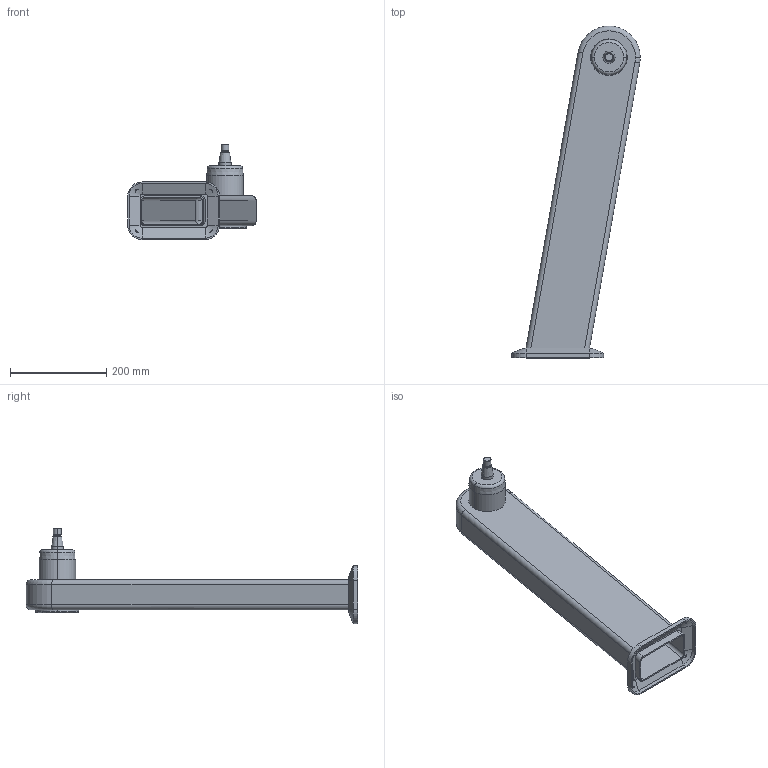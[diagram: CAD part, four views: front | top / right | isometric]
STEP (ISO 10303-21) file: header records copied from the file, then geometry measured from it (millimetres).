
FILE_DESCRIPTION (( 'STEP AP214' ), '1' );
FILE_NAME ('WP710_H625_+10.STEP', '2014-06-27T06:59:34', ( '' ), ( '' ), 'SwSTEP 2.0', 'SolidWorks 2014', '' );
FILE_SCHEMA (( 'AUTOMOTIVE_DESIGN' ));
Length unit declared in the file: millimetre
Products named in the file (1): WP710_H625_+10
Bounding box: 267.18 x 690 x 198 mm (x, y, z)
Volume: 1166029.9 mm3; surface area: 562514.9 mm2
Topology: 1 solids, 1 shells, 114 faces, 256 edges, 156 vertices
Faces by surface type: cylinder 42, plane 40, cone 20, torus 12
Entity records: 3285 total; most frequent: CARTESIAN_POINT 680, DIRECTION 570, ORIENTED_EDGE 512, EDGE_CURVE 256, AXIS2_PLACEMENT_3D 221, VERTEX_POINT 156, LINE 128, VECTOR 128
